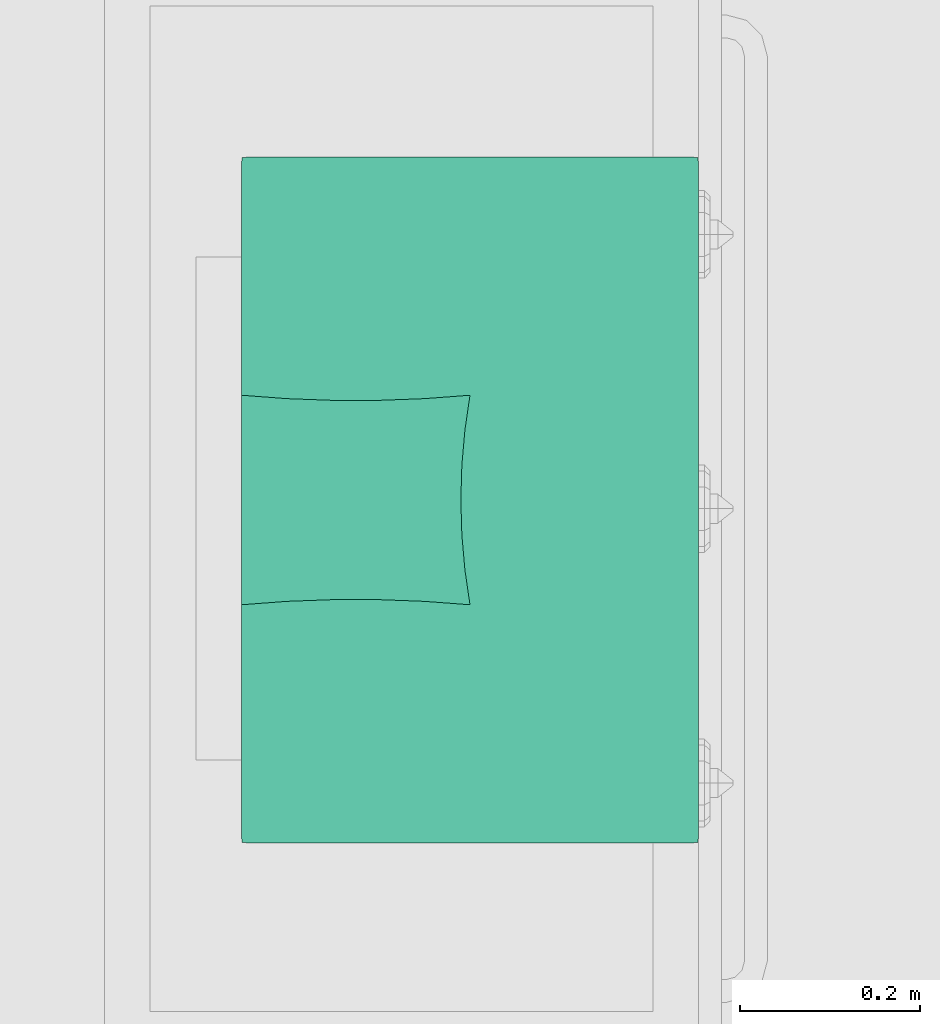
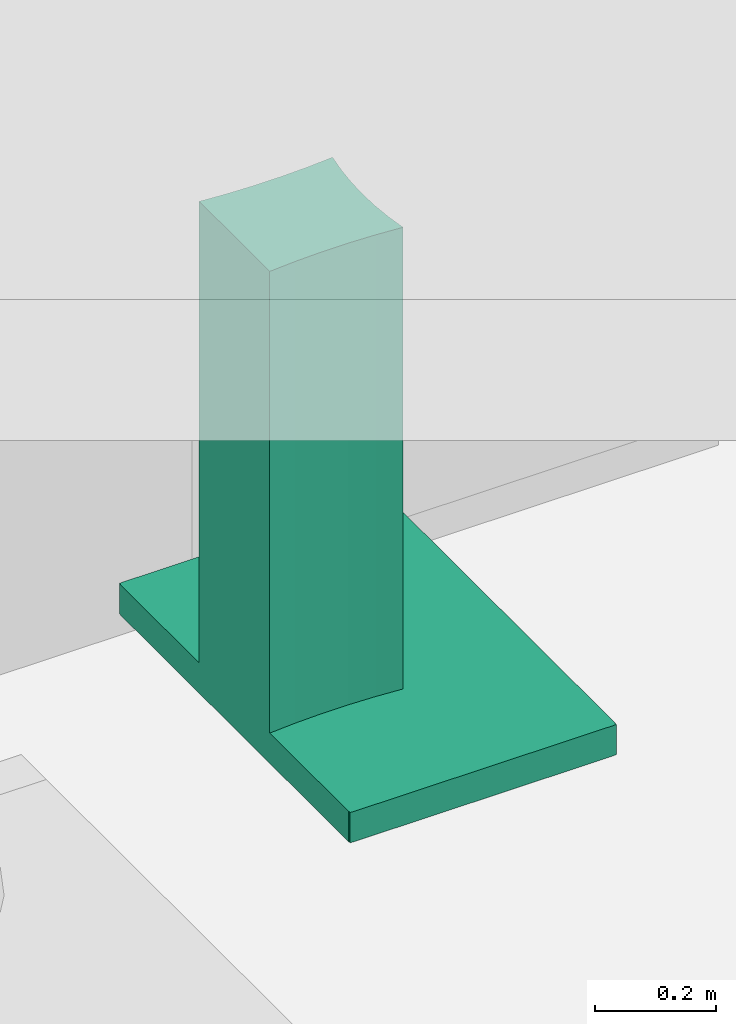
# One storey, part 36 of 103: 1 distribution flow element.
"""IFC2X3 building model written with IfcOpenShell, lengths in inches."""

from ifc_helpers import new_model, entity, si_unit, converted_unit, derived_unit, money_unit, direction, frame, origin_with_axes, place, context, subcontext, project, spatial, open_shell, faceted_brep, surface_model, type_object, element, save


model = new_model("IFC2X3")

# Units and contexts
model_context = context("Model", 3, precision=0.00039370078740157, world=origin_with_axes(), true_north=direction((0.0, 1.0)))
plan_context = context("Plan", 3, precision=0.00039370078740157, world=origin_with_axes(), true_north=direction((0.0, 1.0)))
body_context = subcontext(model_context, "Body", "Model", "MODEL_VIEW")
ifc_project = project(units=[converted_unit("LENGTHUNIT", "INCH", entity("IfcPositiveLengthMeasure", 0.0254), si_unit("LENGTHUNIT", "METRE"), dimensions=[1, 0, 0, 0, 0, 0, 0]), converted_unit("AREAUNIT", "SQUARE_FOOT", entity("IfcPositiveLengthMeasure", 0.09290304), si_unit("AREAUNIT", "SQUARE_METRE"), dimensions=[2, 0, 0, 0, 0, 0, 0]), si_unit("PLANEANGLEUNIT", "RADIAN"), si_unit("SOLIDANGLEUNIT", "STERADIAN"), money_unit("USD"), converted_unit("TIMEUNIT", "Year", entity("IfcTimeMeasure", 31557600.0), si_unit("TIMEUNIT", "SECOND"), dimensions=[0, 0, 1, 0, 0, 0, 0]), si_unit("MASSUNIT", "GRAM", prefix="KILO"), si_unit("THERMODYNAMICTEMPERATUREUNIT", "DEGREE_CELSIUS"), si_unit("LUMINOUSINTENSITYUNIT", "LUMEN"), si_unit("ENERGYUNIT", "JOULE", prefix="MEGA"), derived_unit("SPECIFICHEATCAPACITYUNIT", [(si_unit("ENERGYUNIT", "JOULE"), 1), (si_unit("MASSUNIT", "GRAM", prefix="KILO"), -1), (si_unit("THERMODYNAMICTEMPERATUREUNIT", "KELVIN"), -1)])], contexts=[model_context, plan_context])

# Site, building, storey
site_placement = place(None, origin_with_axes())
site = spatial("IfcSite", under=ifc_project, at=site_placement, Name="Site", CompositionType="ELEMENT")
building_placement = place(site_placement, origin_with_axes())
building = spatial("IfcBuilding", under=site, at=building_placement, Name="Building", CompositionType="ELEMENT")
storey_placement = place(building_placement, frame((0.0, 0.0, 127.9999999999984), z_axis=(0.0, 0.0, 1.0), x_axis=(1.0, 0.0, 0.0)))
storey = spatial("IfcBuildingStorey", under=building, at=storey_placement, Name="Second Floor", CompositionType="ELEMENT", Elevation=128.0)

# Distribution flow element
valve_type = type_object("IfcValveType", Name="Hood", PredefinedType="NOTDEFINED")
distribution_flow_element_placement = place(storey_placement, frame((71.9933814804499, 245.3767289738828, 79.499999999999), z_axis=(0.0, 0.0, 1.0), x_axis=(-2.019381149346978e-06, 0.9999999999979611, 0.0)))
element("IfcDistributionFlowElement", 1, at=distribution_flow_element_placement, inside=storey, type_object=valve_type, Name="OBJ-21", context=body_context, shape_type="SurfaceModel", body=[
    faceted_brep([(0.1666666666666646, 0.0, 2.36220472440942), (29.83333333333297, 0.0, 2.36220472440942), (29.83333333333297, 0.0, 2.401574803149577), (0.1666666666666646, 0.0, 2.401574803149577), (0.1666666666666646, 0.01999999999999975, 2.36220472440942), (0.01666666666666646, 0.01999999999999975, 2.36220472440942), (0.01666666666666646, 0.1999999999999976, 2.36220472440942), (0.0, 0.1999999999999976, 2.36220472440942), (0.0, 19.79999999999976, 2.36220472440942), (0.01666666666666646, 19.79999999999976, 2.36220472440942), (0.01666666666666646, 19.97999999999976, 2.36220472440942), (0.1666666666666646, 19.97999999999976, 2.36220472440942), (0.1666666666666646, 19.99999999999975, 2.36220472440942), (29.83333333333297, 19.99999999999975, 2.36220472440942), (29.83333333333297, 19.97999999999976, 2.36220472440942), (29.98333333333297, 19.97999999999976, 2.36220472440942), (29.98333333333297, 19.79999999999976, 2.36220472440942), (29.99999999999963, 19.79999999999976, 2.36220472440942), (29.99999999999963, 0.1999999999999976, 2.36220472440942), (29.98333333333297, 0.1999999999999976, 2.36220472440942), (29.98333333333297, 0.01999999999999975, 2.36220472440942), (29.83333333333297, 0.01999999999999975, 2.36220472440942), (29.83333333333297, 0.01999999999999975, 2.401574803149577), (29.98333333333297, 0.01999999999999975, 2.401574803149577), (29.98333333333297, 0.1999999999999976, 2.401574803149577), (29.99999999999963, 0.1999999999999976, 2.401574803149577), (29.99999999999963, 19.79999999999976, 2.401574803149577), (29.98333333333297, 19.79999999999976, 2.401574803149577), (29.98333333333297, 19.97999999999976, 2.401574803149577), (29.83333333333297, 19.97999999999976, 2.401574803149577), (29.83333333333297, 19.99999999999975, 2.401574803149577), (0.1666666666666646, 19.99999999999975, 2.401574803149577), (0.1666666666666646, 19.97999999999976, 2.401574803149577), (0.01666666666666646, 19.97999999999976, 2.401574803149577), (0.01666666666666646, 19.79999999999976, 2.401574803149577), (0.0, 19.79999999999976, 2.401574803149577), (0.0, 0.1999999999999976, 2.401574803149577), (0.01666666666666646, 0.1999999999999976, 2.401574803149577), (0.01666666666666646, 0.01999999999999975, 2.401574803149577), (0.1666666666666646, 0.01999999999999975, 2.401574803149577)], [[[0, 1, 2, 3]], [[0, 4, 5, 6, 7, 8, 9, 10, 11, 12, 13, 14, 15, 16, 17, 18, 19, 20, 21, 1]], [[1, 21, 22, 2]], [[3, 2, 22, 23, 24, 25, 26, 27, 28, 29, 30, 31, 32, 33, 34, 35, 36, 37, 38, 39]], [[4, 0, 3, 39]], [[5, 4, 39, 38]], [[6, 5, 38, 37]], [[7, 6, 37, 36]], [[8, 7, 36, 35]], [[9, 8, 35, 34]], [[10, 9, 34, 33]], [[11, 10, 33, 32]], [[12, 11, 32, 31]], [[13, 12, 31, 30]], [[14, 13, 30, 29]], [[15, 14, 29, 28]], [[16, 15, 28, 27]], [[17, 16, 27, 26]], [[18, 17, 26, 25]], [[19, 18, 25, 24]], [[20, 19, 24, 23]], [[21, 20, 23, 22]]]),
    faceted_brep([(0.1666666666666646, 0.0, 0.0), (29.83333333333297, 0.0, 0.0), (29.83333333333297, 0.0, 2.36220472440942), (0.1666666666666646, 0.0, 2.36220472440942), (0.1666666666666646, 0.01999999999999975, 0.0), (0.01666666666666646, 0.01999999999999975, 0.0), (0.01666666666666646, 0.1999999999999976, 0.0), (0.0, 0.1999999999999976, 0.0), (0.0, 19.79999999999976, 0.0), (0.01666666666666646, 19.79999999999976, 0.0), (0.01666666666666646, 19.97999999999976, 0.0), (0.1666666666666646, 19.97999999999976, 0.0), (0.1666666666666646, 19.99999999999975, 0.0), (29.83333333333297, 19.99999999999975, 0.0), (29.83333333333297, 19.97999999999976, 0.0), (29.98333333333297, 19.97999999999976, 0.0), (29.98333333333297, 19.79999999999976, 0.0), (29.99999999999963, 19.79999999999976, 0.0), (29.99999999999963, 0.1999999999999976, 0.0), (29.98333333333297, 0.1999999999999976, 0.0), (29.98333333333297, 0.01999999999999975, 0.0), (29.83333333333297, 0.01999999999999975, 0.0), (0.2096017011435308, 0.02894496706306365, 0.0), (29.7903982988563, 0.02894496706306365, 0.0), (29.7903982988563, 0.04888707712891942, 0.0), (29.93996412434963, 0.04888707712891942, 0.0), (29.93996412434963, 0.2283660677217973, 0.0), (29.9565825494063, 0.2283660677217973, 0.0), (29.9565825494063, 19.77163393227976, 0.0), (29.93996412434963, 19.77163393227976, 0.0), (29.93996412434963, 19.95111292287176, 0.0), (29.7903982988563, 19.95111292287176, 0.0), (29.7903982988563, 19.97105503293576, 0.0), (0.2096017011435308, 19.97105503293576, 0.0), (0.2096017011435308, 19.95111292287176, 0.0), (0.06003587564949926, 19.95111292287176, 0.0), (0.06003587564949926, 19.77163393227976, 0.0), (0.04341745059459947, 19.77163393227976, 0.0), (0.04341745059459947, 0.2283660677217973, 0.0), (0.06003587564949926, 0.2283660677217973, 0.0), (0.06003587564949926, 0.04888707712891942, 0.0), (0.2096017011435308, 0.04888707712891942, 0.0), (29.83333333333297, 0.01999999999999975, 2.36220472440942), (29.98333333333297, 0.01999999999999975, 2.36220472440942), (29.98333333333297, 0.1999999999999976, 2.36220472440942), (29.99999999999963, 0.1999999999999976, 2.36220472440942), (29.99999999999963, 19.79999999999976, 2.36220472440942), (29.98333333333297, 19.79999999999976, 2.36220472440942), (29.98333333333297, 19.97999999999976, 2.36220472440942), (29.83333333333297, 19.97999999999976, 2.36220472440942), (29.83333333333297, 19.99999999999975, 2.36220472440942), (0.1666666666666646, 19.99999999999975, 2.36220472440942), (0.1666666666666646, 19.97999999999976, 2.36220472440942), (0.01666666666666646, 19.97999999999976, 2.36220472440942), (0.01666666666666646, 19.79999999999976, 2.36220472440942), (0.0, 19.79999999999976, 2.36220472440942), (0.0, 0.1999999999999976, 2.36220472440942), (0.01666666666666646, 0.1999999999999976, 2.36220472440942), (0.01666666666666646, 0.01999999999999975, 2.36220472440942), (0.1666666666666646, 0.01999999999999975, 2.36220472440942), (0.2096017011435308, 0.02894496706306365, 2.36220472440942), (0.2096017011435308, 0.04888707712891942, 2.36220472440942), (0.06003587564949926, 0.04888707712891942, 2.36220472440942), (0.06003587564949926, 0.2283660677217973, 2.36220472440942), (0.04341745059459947, 0.2283660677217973, 2.36220472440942), (0.04341745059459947, 19.77163393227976, 2.36220472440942), (0.06003587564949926, 19.77163393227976, 2.36220472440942), (0.06003587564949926, 19.95111292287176, 2.36220472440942), (0.2096017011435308, 19.95111292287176, 2.36220472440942), (0.2096017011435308, 19.97105503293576, 2.36220472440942), (29.7903982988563, 19.97105503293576, 2.36220472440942), (29.7903982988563, 19.95111292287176, 2.36220472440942), (29.93996412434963, 19.95111292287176, 2.36220472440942), (29.93996412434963, 19.77163393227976, 2.36220472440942), (29.9565825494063, 19.77163393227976, 2.36220472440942), (29.9565825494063, 0.2283660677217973, 2.36220472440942), (29.93996412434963, 0.2283660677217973, 2.36220472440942), (29.93996412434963, 0.04888707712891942, 2.36220472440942), (29.7903982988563, 0.04888707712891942, 2.36220472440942), (29.7903982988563, 0.02894496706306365, 2.36220472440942)], [[[0, 1, 2, 3]], [[0, 4, 5, 6, 7, 8, 9, 10, 11, 12, 13, 14, 15, 16, 17, 18, 19, 20, 21, 1], [22, 23, 24, 25, 26, 27, 28, 29, 30, 31, 32, 33, 34, 35, 36, 37, 38, 39, 40, 41]], [[1, 21, 42, 2]], [[3, 2, 42, 43, 44, 45, 46, 47, 48, 49, 50, 51, 52, 53, 54, 55, 56, 57, 58, 59], [60, 61, 62, 63, 64, 65, 66, 67, 68, 69, 70, 71, 72, 73, 74, 75, 76, 77, 78, 79]], [[4, 0, 3, 59]], [[5, 4, 59, 58]], [[6, 5, 58, 57]], [[7, 6, 57, 56]], [[8, 7, 56, 55]], [[9, 8, 55, 54]], [[10, 9, 54, 53]], [[11, 10, 53, 52]], [[12, 11, 52, 51]], [[13, 12, 51, 50]], [[14, 13, 50, 49]], [[15, 14, 49, 48]], [[16, 15, 48, 47]], [[17, 16, 47, 46]], [[18, 17, 46, 45]], [[19, 18, 45, 44]], [[20, 19, 44, 43]], [[21, 20, 43, 42]], [[23, 22, 60, 79]], [[24, 23, 79, 78]], [[25, 24, 78, 77]], [[26, 25, 77, 76]], [[27, 26, 76, 75]], [[28, 27, 75, 74]], [[29, 28, 74, 73]], [[30, 29, 73, 72]], [[31, 30, 72, 71]], [[32, 31, 71, 70]], [[33, 32, 70, 69]], [[34, 33, 69, 68]], [[35, 34, 68, 67]], [[36, 35, 67, 66]], [[37, 36, 66, 65]], [[38, 37, 65, 64]], [[39, 38, 64, 63]], [[40, 39, 63, 62]], [[41, 40, 62, 61]], [[22, 41, 61, 60]]]),
    surface_model("IfcShellBasedSurfaceModel", [(10.41699999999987, 10.00039999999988, 2.401574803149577), (10.41666666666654, 9.999999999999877, 2.401574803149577), (10.41666666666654, 9.999999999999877, 38.99999999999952), (10.41699999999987, 10.00039999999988, 38.99999999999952), (10.56594389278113, 11.99598933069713, 2.401574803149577), (10.64065731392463, 13.99799426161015, 2.401574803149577), (10.64065731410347, 16.00200572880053, 2.401574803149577), (10.56594389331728, 18.00401065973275, 2.401574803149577), (10.41666666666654, 19.99999999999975, 2.401574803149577), (10.41699999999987, 20.00399999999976, 2.401574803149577), (19.58333333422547, 20.00000000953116, 2.401574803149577), (19.43405610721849, 18.00401066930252, 2.401574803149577), (19.359342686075, 16.0020057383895, 2.401574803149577), (19.35934268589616, 13.99799427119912, 2.401574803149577), (19.43405610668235, 11.9959893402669, 2.401574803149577), (19.58333333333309, 9.999999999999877, 2.401574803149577), (18.06153221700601, 10.22204857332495, 2.401574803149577), (16.53256078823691, 10.3554860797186, 2.401574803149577), (14.99999999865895, 10.39999999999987, 2.401574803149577), (13.46743920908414, 10.35548607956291, 2.401574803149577), (11.93846778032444, 10.22204857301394, 2.401574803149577), (11.93846778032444, 10.22204857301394, 38.99999999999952), (13.46743920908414, 10.35548607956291, 38.99999999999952), (14.99999999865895, 10.39999999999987, 38.99999999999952), (16.53256078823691, 10.3554860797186, 38.99999999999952), (18.06153221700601, 10.22204857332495, 38.99999999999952), (19.58333333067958, 10.00000000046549, 38.99999999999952), (19.43405610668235, 11.9959893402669, 38.99999999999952), (19.35934268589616, 13.99799427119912, 38.99999999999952), (19.359342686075, 16.0020057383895, 38.99999999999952), (19.43405610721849, 18.00401066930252, 38.99999999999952), (19.58333333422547, 20.00000000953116, 38.99999999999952), (10.41699999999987, 20.00399999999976, 38.99999999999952), (10.41666666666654, 19.99999999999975, 38.99999999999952), (10.56594389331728, 18.00401065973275, 38.99999999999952), (10.64065731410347, 16.00200572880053, 38.99999999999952), (10.64065731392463, 13.99799426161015, 38.99999999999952), (10.56594389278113, 11.99598933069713, 38.99999999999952), (10.41666666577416, 9.999999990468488, 38.99999999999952), (10.41666666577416, 9.999999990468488, 2.401574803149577), (19.58333333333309, 9.999999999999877, 38.99999999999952), (19.58366666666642, 10.00039999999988, 2.401574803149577), (19.58366666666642, 10.00039999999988, 38.99999999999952), (19.58333333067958, 10.00000000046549, 2.401574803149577)], [open_shell([[[0, 1, 2, 3]], [[4, 5, 6, 7, 8, 9, 10, 11, 12, 13, 14, 15, 16, 17, 18, 19, 20, 1]], [[1, 20, 21, 2]], [[21, 22, 23, 24, 25, 26, 27, 28, 29, 30, 31, 32, 33, 34, 35, 36, 37, 38]], [[39, 0, 3, 38]], [[4, 39, 38, 37]], [[5, 4, 37, 36]], [[6, 5, 36, 35]], [[7, 6, 35, 34]], [[8, 7, 34, 33]], [[9, 8, 33, 32]], [[10, 9, 32, 31]], [[11, 10, 31, 30]], [[12, 11, 30, 29]], [[13, 12, 29, 28]], [[14, 13, 28, 27]], [[15, 14, 27, 40]], [[41, 15, 40, 42]], [[43, 41, 42, 26]], [[16, 43, 26, 25]], [[17, 16, 25, 24]], [[18, 17, 24, 23]], [[19, 18, 23, 22]], [[20, 19, 22, 21]]])]),
    faceted_brep([(25.31999999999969, 2.476578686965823, 0.0), (25.40999999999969, 2.251052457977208, -0.157480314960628), (25.37687274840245, 2.251052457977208, -0.157480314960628), (25.31530912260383, 2.476578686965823, 0.0), (25.31999999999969, 1.167352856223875, 0.0), (25.40999999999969, 1.363676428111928, -0.1574803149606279), (25.26859646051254, 1.432298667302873, -0.157480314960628), (25.14546920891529, 1.716648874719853, -0.157480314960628), (25.18823085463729, 2.039999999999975, -0.157480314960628), (25.03234628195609, 2.159999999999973, 0.0), (24.9682038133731, 1.67497331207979, 0.0), (25.15289469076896, 1.248448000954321, 0.0)], [[[0, 1, 2, 3]], [[1, 0, 4, 5]], [[1, 5, 6, 7, 8, 2]], [[2, 8, 9, 3]], [[4, 0, 3, 9, 10, 11]], [[5, 4, 11, 6]], [[7, 6, 11, 10]], [[8, 7, 10, 9]]]),
    faceted_brep([(25.58999999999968, 2.251052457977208, -0.157480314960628), (25.67999999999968, 2.476578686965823, 0.0), (25.68469087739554, 2.476578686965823, 0.0), (25.62312725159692, 2.251052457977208, -0.157480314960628), (25.67999999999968, 1.167352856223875, 0.0), (25.58999999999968, 1.363676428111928, -0.1574803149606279), (25.84710530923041, 1.24844800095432, 0.0), (26.03179618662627, 1.67497331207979, 0.0), (25.96765371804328, 2.159999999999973, 0.0), (25.81176914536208, 2.039999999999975, -0.157480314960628), (25.85453079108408, 1.716648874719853, -0.157480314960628), (25.73140353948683, 1.432298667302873, -0.157480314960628)], [[[0, 1, 2, 3]], [[4, 1, 0, 5]], [[1, 4, 6, 7, 8, 2]], [[9, 3, 2, 8]], [[5, 0, 3, 9, 10, 11]], [[4, 5, 11, 6]], [[11, 10, 7, 6]], [[10, 9, 8, 7]]]),
    faceted_brep([(25.67999999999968, 1.049999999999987, 0.0), (25.67999999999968, 2.41799999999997, 0.0), (25.31999999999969, 2.41799999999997, 0.0), (25.31999999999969, 1.049999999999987, 0.0), (25.58999999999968, 1.049999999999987, -0.1574803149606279), (25.58999999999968, 2.41799999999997, -0.157480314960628), (25.49999999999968, 2.41799999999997, -0.236220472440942), (25.40999999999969, 2.41799999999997, -0.157480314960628), (25.40999999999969, 1.049999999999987, -0.1574803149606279), (25.49999999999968, 1.049999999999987, -0.236220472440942)], [[[0, 1, 2, 3]], [[4, 5, 1, 0]], [[1, 5, 6, 7, 2]], [[3, 2, 7, 8]], [[0, 3, 8, 9, 4]], [[9, 6, 5, 4]], [[8, 7, 6, 9]]]),
    faceted_brep([(26.62499999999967, 1.409999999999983, 0.0), (26.62499999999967, 1.409999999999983, -0.0984251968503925), (26.64477029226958, 1.346360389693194, -0.0984251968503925), (26.64477029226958, 1.346360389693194, 0.0), (26.62499999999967, 2.189999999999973, 0.0), (26.62499999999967, 2.189999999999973, -0.0984251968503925), (26.64477029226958, 2.253639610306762, -0.0984251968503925), (26.69249999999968, 2.279999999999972, -0.0984251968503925), (27.00749999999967, 2.279999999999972, -0.0984251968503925), (27.05522970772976, 2.253639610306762, -0.0984251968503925), (27.07499999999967, 2.189999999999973, -0.0984251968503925), (27.07499999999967, 1.409999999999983, -0.0984251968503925), (27.05522970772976, 1.346360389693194, -0.0984251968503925), (27.00749999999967, 1.319999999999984, -0.0984251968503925), (26.69249999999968, 1.319999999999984, -0.0984251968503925), (26.69249999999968, 1.319999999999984, 0.0), (27.00749999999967, 1.319999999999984, 0.0), (27.05522970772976, 1.346360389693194, 0.0), (27.07499999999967, 1.409999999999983, 0.0), (27.07499999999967, 2.189999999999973, 0.0), (27.05522970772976, 2.253639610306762, 0.0), (27.00749999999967, 2.279999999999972, 0.0), (26.69249999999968, 2.279999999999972, 0.0), (26.64477029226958, 2.253639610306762, 0.0)], [[[0, 1, 2, 3]], [[4, 5, 1, 0]], [[1, 5, 6, 7, 8, 9, 10, 11, 12, 13, 14, 2]], [[3, 2, 14, 15]], [[0, 3, 15, 16, 17, 18, 19, 20, 21, 22, 23, 4]], [[23, 6, 5, 4]], [[22, 7, 6, 23]], [[21, 8, 7, 22]], [[20, 9, 8, 21]], [[19, 10, 9, 20]], [[18, 11, 10, 19]], [[17, 12, 11, 18]], [[16, 13, 12, 17]], [[15, 14, 13, 16]]]),
    faceted_brep([(27.00749999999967, 2.172044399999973, -0.1751789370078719), (26.69249999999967, 2.172044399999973, -0.1751789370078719), (26.69249999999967, 2.18999954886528, -0.09842439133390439), (27.00749999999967, 2.18999954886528, -0.09842439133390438), (27.00749999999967, 2.069738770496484, -0.2832534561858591), (26.69249999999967, 2.069738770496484, -0.2832534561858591), (26.69249999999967, 2.04782677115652, -0.2901435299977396), (26.69249999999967, 2.023950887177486, -0.2871843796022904), (26.69249999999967, 2.007380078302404, -0.2755240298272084), (26.69249999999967, 1.775388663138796, -0.1469993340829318), (26.69249999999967, 1.47324127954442, -0.1665854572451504), (26.69249999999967, 1.450038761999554, -0.1689873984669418), (26.69249999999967, 1.428942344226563, -0.1622095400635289), (26.69249999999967, 1.417603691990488, -0.1487112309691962), (26.69249999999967, 1.409999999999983, -0.09842519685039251), (27.00749999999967, 1.409999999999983, -0.0984251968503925), (27.00749999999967, 1.417603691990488, -0.1487112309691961), (27.00749999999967, 1.428942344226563, -0.1622095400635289), (27.00749999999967, 1.450038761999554, -0.1689873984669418), (27.00749999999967, 1.47324127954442, -0.1665854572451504), (27.00749999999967, 1.775388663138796, -0.1469993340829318), (27.00749999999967, 2.007380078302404, -0.2755240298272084), (27.00749999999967, 2.023950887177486, -0.2871843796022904), (27.00749999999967, 2.04782677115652, -0.2901435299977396)], [[[0, 1, 2, 3]], [[4, 5, 1, 0]], [[1, 5, 6, 7, 8, 9, 10, 11, 12, 13, 14, 2]], [[3, 2, 14, 15]], [[0, 3, 15, 16, 17, 18, 19, 20, 21, 22, 23, 4]], [[23, 6, 5, 4]], [[22, 7, 6, 23]], [[21, 8, 7, 22]], [[20, 9, 8, 21]], [[19, 10, 9, 20]], [[18, 11, 10, 19]], [[17, 12, 11, 18]], [[16, 13, 12, 17]], [[15, 14, 13, 16]]]),
    faceted_brep([(27.43499999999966, 1.409999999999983, 0.0), (27.43499999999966, 1.409999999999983, -0.0984251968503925), (27.45477029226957, 1.346360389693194, -0.0984251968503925), (27.45477029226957, 1.346360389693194, 0.0), (27.43499999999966, 2.189999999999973, 0.0), (27.43499999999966, 2.189999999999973, -0.0984251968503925), (27.45477029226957, 2.253639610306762, -0.0984251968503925), (27.50249999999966, 2.279999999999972, -0.0984251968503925), (27.81749999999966, 2.279999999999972, -0.0984251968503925), (27.86522970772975, 2.253639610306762, -0.0984251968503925), (27.88499999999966, 2.189999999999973, -0.0984251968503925), (27.88499999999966, 1.409999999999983, -0.0984251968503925), (27.86522970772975, 1.346360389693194, -0.0984251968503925), (27.81749999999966, 1.319999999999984, -0.0984251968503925), (27.50249999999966, 1.319999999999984, -0.0984251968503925), (27.50249999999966, 1.319999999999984, 0.0), (27.81749999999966, 1.319999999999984, 0.0), (27.86522970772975, 1.346360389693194, 0.0), (27.88499999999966, 1.409999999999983, 0.0), (27.88499999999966, 2.189999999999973, 0.0), (27.86522970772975, 2.253639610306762, 0.0), (27.81749999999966, 2.279999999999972, 0.0), (27.50249999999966, 2.279999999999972, 0.0), (27.45477029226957, 2.253639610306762, 0.0)], [[[0, 1, 2, 3]], [[4, 5, 1, 0]], [[1, 5, 6, 7, 8, 9, 10, 11, 12, 13, 14, 2]], [[3, 2, 14, 15]], [[0, 3, 15, 16, 17, 18, 19, 20, 21, 22, 23, 4]], [[23, 6, 5, 4]], [[22, 7, 6, 23]], [[21, 8, 7, 22]], [[20, 9, 8, 21]], [[19, 10, 9, 20]], [[18, 11, 10, 19]], [[17, 12, 11, 18]], [[16, 13, 12, 17]], [[15, 14, 13, 16]]]),
    faceted_brep([(27.81749999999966, 2.172044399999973, -0.1751789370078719), (27.50249999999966, 2.172044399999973, -0.1751789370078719), (27.50249999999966, 2.18999954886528, -0.09842439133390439), (27.81749999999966, 2.18999954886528, -0.09842439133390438), (27.81749999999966, 2.069738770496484, -0.2832534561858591), (27.50249999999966, 2.069738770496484, -0.2832534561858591), (27.50249999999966, 2.04782677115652, -0.2901435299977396), (27.50249999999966, 2.023950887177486, -0.2871843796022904), (27.50249999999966, 2.007380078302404, -0.2755240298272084), (27.50249999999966, 1.775388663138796, -0.1469993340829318), (27.50249999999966, 1.47324127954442, -0.1665854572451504), (27.50249999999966, 1.450038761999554, -0.1689873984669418), (27.50249999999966, 1.428942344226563, -0.1622095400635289), (27.50249999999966, 1.417603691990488, -0.1487112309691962), (27.50249999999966, 1.409999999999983, -0.09842519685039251), (27.81749999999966, 1.409999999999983, -0.0984251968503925), (27.81749999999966, 1.417603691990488, -0.1487112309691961), (27.81749999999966, 1.428942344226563, -0.1622095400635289), (27.81749999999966, 1.450038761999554, -0.1689873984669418), (27.81749999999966, 1.47324127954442, -0.1665854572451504), (27.81749999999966, 1.775388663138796, -0.1469993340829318), (27.81749999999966, 2.007380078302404, -0.2755240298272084), (27.81749999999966, 2.023950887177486, -0.2871843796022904), (27.81749999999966, 2.04782677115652, -0.2901435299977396)], [[[0, 1, 2, 3]], [[4, 5, 1, 0]], [[1, 5, 6, 7, 8, 9, 10, 11, 12, 13, 14, 2]], [[3, 2, 14, 15]], [[0, 3, 15, 16, 17, 18, 19, 20, 21, 22, 23, 4]], [[23, 6, 5, 4]], [[22, 7, 6, 23]], [[21, 8, 7, 22]], [[20, 9, 8, 21]], [[19, 10, 9, 20]], [[18, 11, 10, 19]], [[17, 12, 11, 18]], [[16, 13, 12, 17]], [[15, 14, 13, 16]]]),
    faceted_brep([(28.24499999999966, 1.409999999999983, 0.0), (28.24499999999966, 1.409999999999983, -0.0984251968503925), (28.26477029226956, 1.346360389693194, -0.0984251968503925), (28.26477029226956, 1.346360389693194, 0.0), (28.24499999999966, 2.189999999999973, 0.0), (28.24499999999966, 2.189999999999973, -0.0984251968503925), (28.26477029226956, 2.253639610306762, -0.0984251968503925), (28.31249999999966, 2.279999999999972, -0.0984251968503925), (28.62749999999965, 2.279999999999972, -0.0984251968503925), (28.67522970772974, 2.253639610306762, -0.0984251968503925), (28.69499999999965, 2.189999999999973, -0.0984251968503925), (28.69499999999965, 1.409999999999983, -0.0984251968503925), (28.67522970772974, 1.346360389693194, -0.0984251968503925), (28.62749999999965, 1.319999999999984, -0.0984251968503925), (28.31249999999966, 1.319999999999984, -0.0984251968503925), (28.31249999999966, 1.319999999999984, 0.0), (28.62749999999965, 1.319999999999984, 0.0), (28.67522970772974, 1.346360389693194, 0.0), (28.69499999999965, 1.409999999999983, 0.0), (28.69499999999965, 2.189999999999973, 0.0), (28.67522970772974, 2.253639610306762, 0.0), (28.62749999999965, 2.279999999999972, 0.0), (28.31249999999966, 2.279999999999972, 0.0), (28.26477029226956, 2.253639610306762, 0.0)], [[[0, 1, 2, 3]], [[4, 5, 1, 0]], [[1, 5, 6, 7, 8, 9, 10, 11, 12, 13, 14, 2]], [[3, 2, 14, 15]], [[0, 3, 15, 16, 17, 18, 19, 20, 21, 22, 23, 4]], [[23, 6, 5, 4]], [[22, 7, 6, 23]], [[21, 8, 7, 22]], [[20, 9, 8, 21]], [[19, 10, 9, 20]], [[18, 11, 10, 19]], [[17, 12, 11, 18]], [[16, 13, 12, 17]], [[15, 14, 13, 16]]]),
    faceted_brep([(28.62749999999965, 2.172044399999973, -0.1751789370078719), (28.31249999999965, 2.172044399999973, -0.1751789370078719), (28.31249999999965, 2.18999954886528, -0.09842439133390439), (28.62749999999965, 2.18999954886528, -0.09842439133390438), (28.62749999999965, 2.069738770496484, -0.2832534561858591), (28.31249999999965, 2.069738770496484, -0.2832534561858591), (28.31249999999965, 2.04782677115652, -0.2901435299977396), (28.31249999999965, 2.023950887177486, -0.2871843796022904), (28.31249999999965, 2.007380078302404, -0.2755240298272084), (28.31249999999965, 1.775388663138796, -0.1469993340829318), (28.31249999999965, 1.47324127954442, -0.1665854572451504), (28.31249999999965, 1.450038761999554, -0.1689873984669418), (28.31249999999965, 1.428942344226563, -0.1622095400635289), (28.31249999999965, 1.417603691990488, -0.1487112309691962), (28.31249999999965, 1.409999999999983, -0.09842519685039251), (28.62749999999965, 1.409999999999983, -0.0984251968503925), (28.62749999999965, 1.417603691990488, -0.1487112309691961), (28.62749999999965, 1.428942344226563, -0.1622095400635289), (28.62749999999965, 1.450038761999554, -0.1689873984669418), (28.62749999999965, 1.47324127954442, -0.1665854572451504), (28.62749999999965, 1.775388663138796, -0.1469993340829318), (28.62749999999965, 2.007380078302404, -0.2755240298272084), (28.62749999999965, 2.023950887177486, -0.2871843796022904), (28.62749999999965, 2.04782677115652, -0.2901435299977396)], [[[0, 1, 2, 3]], [[4, 5, 1, 0]], [[1, 5, 6, 7, 8, 9, 10, 11, 12, 13, 14, 2]], [[3, 2, 14, 15]], [[0, 3, 15, 16, 17, 18, 19, 20, 21, 22, 23, 4]], [[23, 6, 5, 4]], [[22, 7, 6, 23]], [[21, 8, 7, 22]], [[20, 9, 8, 21]], [[19, 10, 9, 20]], [[18, 11, 10, 19]], [[17, 12, 11, 18]], [[16, 13, 12, 17]], [[15, 14, 13, 16]]]),
    faceted_brep([(29.01574803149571, 3.14960629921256, -0.039370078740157), (29.01574803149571, 19.01574803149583, -0.039370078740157), (29.01574803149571, 19.01574803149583, 0.0), (29.01574803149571, 3.14960629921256, 0.0), (0.9842519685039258, 3.14960629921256, -0.039370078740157), (0.9842519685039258, 19.01574803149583, -0.039370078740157), (0.9842519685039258, 19.01574803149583, 0.0), (0.9842519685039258, 3.14960629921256, 0.0)], [[[0, 1, 2, 3]], [[0, 4, 5, 1]], [[1, 5, 6, 2]], [[3, 2, 6, 7]], [[4, 0, 3, 7]], [[5, 4, 7, 6]]]),
    faceted_brep([(29.92125984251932, 0.078740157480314, 0.0), (29.92125984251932, 19.92125984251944, 0.0), (29.92125984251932, 19.92125984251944, 0.39370078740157), (29.92125984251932, 0.078740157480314, 0.39370078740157), (0.07874015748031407, 0.078740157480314, 0.0), (0.07874015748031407, 19.92125984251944, 0.0), (29.01574803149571, 3.14960629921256, 0.0), (29.01574803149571, 19.01574803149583, 0.0), (0.9842519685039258, 19.01574803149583, 0.0), (0.9842519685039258, 3.14960629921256, 0.0), (0.07874015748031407, 19.92125984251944, 0.39370078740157), (0.07874015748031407, 0.078740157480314, 0.39370078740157), (29.01574803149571, 3.14960629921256, 0.39370078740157), (0.9842519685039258, 3.14960629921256, 0.39370078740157), (0.9842519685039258, 19.01574803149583, 0.39370078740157), (29.01574803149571, 19.01574803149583, 0.39370078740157)], [[[0, 1, 2, 3]], [[0, 4, 5, 1], [6, 7, 8, 9]], [[1, 5, 10, 2]], [[3, 2, 10, 11], [12, 13, 14, 15]], [[4, 0, 3, 11]], [[5, 4, 11, 10]], [[7, 6, 12, 15]], [[8, 7, 15, 14]], [[9, 8, 14, 13]], [[6, 9, 13, 12]]]),
])

save(model, "model.ifc")
